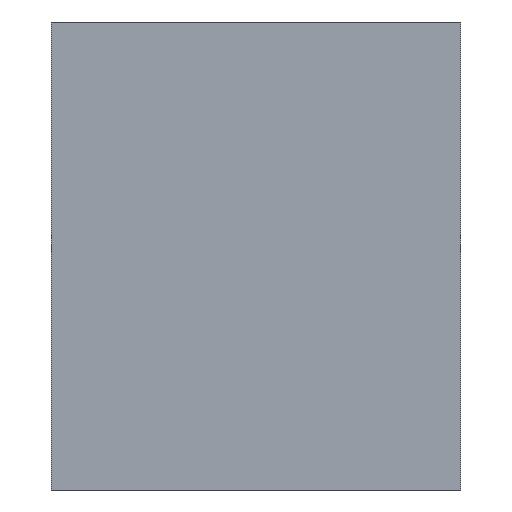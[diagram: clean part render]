
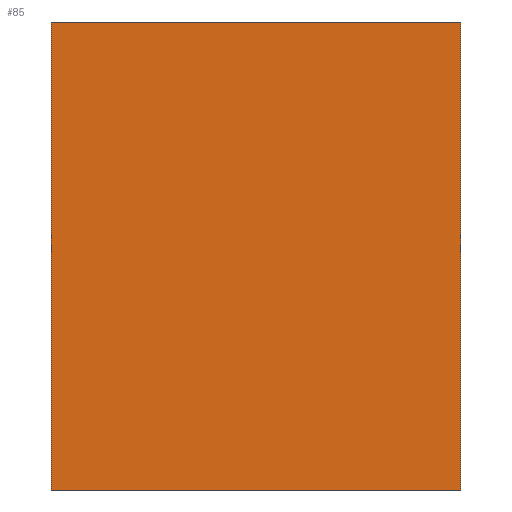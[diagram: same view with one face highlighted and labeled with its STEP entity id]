
A CAD part, left-side view. The second image highlights one B-rep face of the part: STEP entity #85.
In plain terms, the highlighted planar face has unit normal (-1, 0, 0).
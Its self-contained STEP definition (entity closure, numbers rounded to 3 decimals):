
#2 = EDGE_CURVE ( 'NONE', #617, #243, #650, .T. ) ;
#34 = FACE_OUTER_BOUND ( 'NONE', #412, .T. ) ;
#42 = CARTESIAN_POINT ( 'NONE',  ( -50.8, 44.45, 50.8 ) ) ;
#63 = DIRECTION ( 'NONE',  ( 0., 0., -1. ) ) ;
#85 = ADVANCED_FACE ( 'NONE', ( #34 ), #183, .F. ) ;
#140 = AXIS2_PLACEMENT_3D ( 'NONE', #42, #345, #194 ) ;
#183 = PLANE ( 'NONE',  #140 ) ;
#194 = DIRECTION ( 'NONE',  ( 0., 1., 0. ) ) ;
#202 = EDGE_CURVE ( 'NONE', #592, #447, #264, .T. ) ;
#224 = EDGE_CURVE ( 'NONE', #592, #617, #366, .T. ) ;
#243 = VERTEX_POINT ( 'NONE', #632 ) ;
#252 = DIRECTION ( 'NONE',  ( 0., -1., 0. ) ) ;
#264 = LINE ( 'NONE', #483, #577 ) ;
#268 = DIRECTION ( 'NONE',  ( 0., 0., -1. ) ) ;
#309 = ORIENTED_EDGE ( 'NONE', *, *, #202, .F. ) ;
#336 = VECTOR ( 'NONE', #268, 1000. ) ;
#345 = DIRECTION ( 'NONE',  ( 1., 0., 0. ) ) ;
#359 = VECTOR ( 'NONE', #63, 1000. ) ;
#366 = LINE ( 'NONE', #569, #336 ) ;
#412 = EDGE_LOOP ( 'NONE', ( #456, #438, #309, #561 ) ) ;
#438 = ORIENTED_EDGE ( 'NONE', *, *, #513, .F. ) ;
#447 = VERTEX_POINT ( 'NONE', #509 ) ;
#456 = ORIENTED_EDGE ( 'NONE', *, *, #2, .T. ) ;
#467 = DIRECTION ( 'NONE',  ( 0., -1., 0. ) ) ;
#483 = CARTESIAN_POINT ( 'NONE',  ( -50.8, 44.45, 50.8 ) ) ;
#496 = CARTESIAN_POINT ( 'NONE',  ( -50.8, 44.45, 0. ) ) ;
#509 = CARTESIAN_POINT ( 'NONE',  ( -50.8, 0., 50.8 ) ) ;
#513 = EDGE_CURVE ( 'NONE', #447, #243, #579, .T. ) ;
#528 = CARTESIAN_POINT ( 'NONE',  ( -50.8, 0., 50.8 ) ) ;
#544 = VECTOR ( 'NONE', #252, 1000. ) ;
#561 = ORIENTED_EDGE ( 'NONE', *, *, #224, .T. ) ;
#569 = CARTESIAN_POINT ( 'NONE',  ( -50.8, 44.45, 50.8 ) ) ;
#577 = VECTOR ( 'NONE', #467, 1000. ) ;
#579 = LINE ( 'NONE', #528, #359 ) ;
#592 = VERTEX_POINT ( 'NONE', #613 ) ;
#613 = CARTESIAN_POINT ( 'NONE',  ( -50.8, 44.45, 50.8 ) ) ;
#617 = VERTEX_POINT ( 'NONE', #619 ) ;
#619 = CARTESIAN_POINT ( 'NONE',  ( -50.8, 44.45, 0. ) ) ;
#632 = CARTESIAN_POINT ( 'NONE',  ( -50.8, 0., 0. ) ) ;
#650 = LINE ( 'NONE', #496, #544 ) ;
